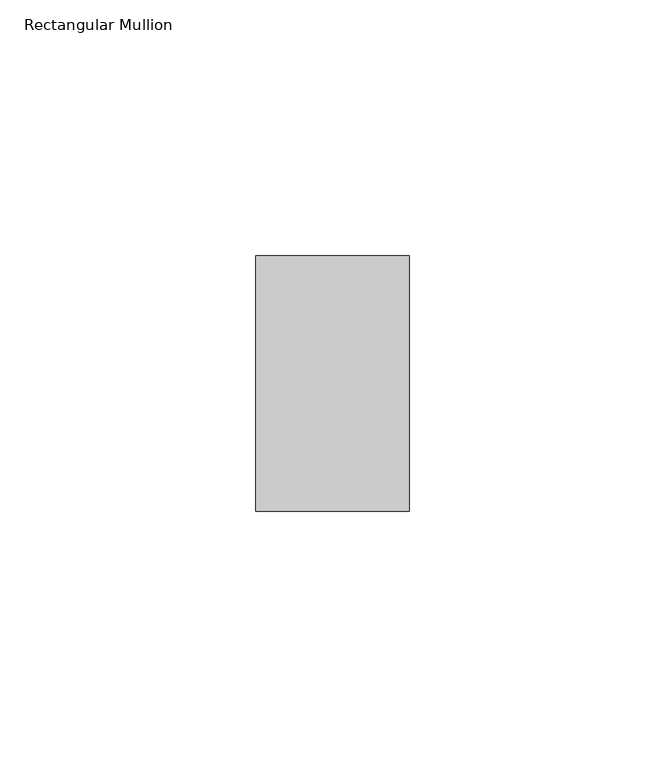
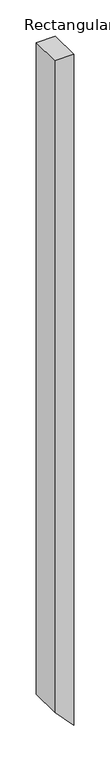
"""IFC4 building model written with IfcOpenShell, lengths in millimetres: member geometry, Rectangular Mullion : ARQ_TV_MULL_50x30mm."""

import ifcopenshell
import ifcopenshell.guid

model = None  # the IFC model being written
_history = None  # IfcOwnerHistory: only IFC2X3 demands one
_inside = {}  # id of a spatial element -> (the spatial element, [elements in it])
_under = {}  # id of a project, library or spatial element -> (it, [spatial elements below it])
_declared = {}  # id of a project -> (the project, [libraries it declares])
_typed = {}  # id of a type object -> (the type object, [elements of that type])
_made_of = {}  # id of a material, layer set ... -> (it, [elements and type objects made of it])


def new_model(schema):
    """Start an empty IFC model of exactly this schema.

    Asked for "IFC4X3", IfcOpenShell would pick the latest addendum, in which some entities
    have other attributes; the version numbers below select the first issue.
    IFC2X3 requires an IfcOwnerHistory on every rooted entity: one is made here for all.
    """
    global model, _history
    if schema == "IFC4X3":
        model = ifcopenshell.file(schema_version=(4, 3, 0, 0))
    else:
        model = ifcopenshell.file(schema=schema)
    _inside.clear()
    _under.clear()
    _declared.clear()
    _typed.clear()
    _made_of.clear()
    _history = None
    if model.schema == "IFC2X3":
        org = make("IfcOrganization", Name="unknown")
        user = make(
            "IfcPersonAndOrganization",
            ThePerson=make("IfcPerson", FamilyName="unknown"),
            TheOrganization=org,
        )
        app = make(
            "IfcApplication",
            ApplicationDeveloper=org,
            Version="unknown",
            ApplicationFullName="unknown",
            ApplicationIdentifier="unknown",
        )
        _history = make(
            "IfcOwnerHistory",
            OwningUser=user,
            OwningApplication=app,
            ChangeAction="ADDED",
            CreationDate=0,
        )
    return model


def make(cls, **values):
    """One entity of the class cls with the attributes given. An attribute that is None is left unset."""
    return model.create_entity(
        cls, **{name: value for name, value in values.items() if value is not None}
    )


def rooted(cls, **values):
    """An entity with a GlobalId (a new one), such as an element, a storey or a relation."""
    return make(cls, GlobalId=ifcopenshell.guid.new(), OwnerHistory=_history, **values)


def si_unit(unit_type, name, prefix=None):
    """IfcSIUnit, for example si_unit("LENGTHUNIT", "METRE", prefix="MILLI")."""
    return make("IfcSIUnit", UnitType=unit_type, Prefix=prefix, Name=name)


def assignment(units):
    """IfcUnitAssignment: the units of a project."""
    return None if units is None else make("IfcUnitAssignment", Units=units)


def point(xyz):
    """IfcCartesianPoint."""
    return None if xyz is None else make("IfcCartesianPoint", Coordinates=xyz)


def direction(xyz):
    """IfcDirection."""
    return None if xyz is None else make("IfcDirection", DirectionRatios=xyz)


def frame(location, z_axis=None, x_axis=None):
    """IfcAxis2Placement3D, a coordinate frame: its origin and axes. An axis left out is left unset."""
    return make(
        "IfcAxis2Placement3D",
        Location=point(location),
        Axis=direction(z_axis),
        RefDirection=direction(x_axis),
    )


def origin():
    """The frame at (0, 0, 0) with its axes left unset."""
    return frame((0.0, 0.0, 0.0))


def place(relative_to, where):
    """IfcLocalPlacement: puts the frame where relative to a parent placement (None: the world)."""
    return make(
        "IfcLocalPlacement", PlacementRelTo=relative_to, RelativePlacement=where
    )


def context(
    kind, dimensions, precision=None, world=None, true_north=None, identifier=None
):
    """IfcGeometricRepresentationContext, for example the 3D "Model" context."""
    return make(
        "IfcGeometricRepresentationContext",
        ContextIdentifier=identifier,
        ContextType=kind,
        CoordinateSpaceDimension=dimensions,
        Precision=precision,
        WorldCoordinateSystem=world,
        TrueNorth=true_north,
    )


def project(units=None, contexts=None):
    """IfcProject with its units and contexts."""
    return rooted(
        "IfcProject",
        Name="project",
        RepresentationContexts=contexts,
        UnitsInContext=assignment(units),
    )


def spatial(cls, under=None, at=None, **own):
    """A site, building, storey or space (cls), placed at a placement, below another one or the project."""
    s = rooted(cls, ObjectPlacement=at, **own)
    if under is not None:
        _under.setdefault(under.id(), (under, []))[1].append(s)
    return s


def polyline(points):
    """IfcPolyline through the points."""
    return make("IfcPolyline", Points=[point(p) for p in points])


def outline(outer, holes=None, kind="AREA"):
    """IfcArbitraryClosedProfileDef: a profile drawn as a closed curve; with holes, ...WithVoids."""
    if holes is None:
        return make("IfcArbitraryClosedProfileDef", ProfileType=kind, OuterCurve=outer)
    return make(
        "IfcArbitraryProfileDefWithVoids",
        ProfileType=kind,
        OuterCurve=outer,
        InnerCurves=holes,
    )


def extrude(swept, where, along, depth):
    """IfcExtrudedAreaSolid: the profile swept, set in the frame where, extruded along a direction by depth."""
    return make(
        "IfcExtrudedAreaSolid",
        SweptArea=swept,
        Position=where,
        ExtrudedDirection=direction(along),
        Depth=depth,
    )


def shape(context_of_items, identifier, shape_type, items):
    """IfcShapeRepresentation: the items that make up one representation, for example the "Body"."""
    return make(
        "IfcShapeRepresentation",
        ContextOfItems=context_of_items,
        RepresentationIdentifier=identifier,
        RepresentationType=shape_type,
        Items=items,
    )


def source(mapping_origin, context_of_items, identifier, shape_type, items):
    """IfcRepresentationMap: a shape defined once, which mapped items show again and again."""
    return make(
        "IfcRepresentationMap",
        MappingOrigin=mapping_origin,
        MappedRepresentation=shape(context_of_items, identifier, shape_type, items),
    )


def transform(
    local_origin,
    x_axis=None,
    y_axis=None,
    z_axis=None,
    scale=None,
    scale2=None,
    scale3=None,
    uniform=True,
):
    """IfcCartesianTransformationOperator3D, or its non-uniform kind. x_axis, y_axis, z_axis: its Axis1, 2, 3."""
    if uniform:
        return make(
            "IfcCartesianTransformationOperator3D",
            Axis1=direction(x_axis),
            Axis2=direction(y_axis),
            LocalOrigin=point(local_origin),
            Scale=scale,
            Axis3=direction(z_axis),
        )
    return make(
        "IfcCartesianTransformationOperator3DnonUniform",
        Axis1=direction(x_axis),
        Axis2=direction(y_axis),
        LocalOrigin=point(local_origin),
        Scale=scale,
        Axis3=direction(z_axis),
        Scale2=scale2,
        Scale3=scale3,
    )


def mapped(mapping_source, mapping_target):
    """IfcMappedItem: shows the shape of a source again, moved by a transform."""
    return make(
        "IfcMappedItem", MappingSource=mapping_source, MappingTarget=mapping_target
    )


def made_of(thing, what):
    """Note that an element or type object is made of a material, layer set ...; save() writes the relation."""
    if what is not None:
        _made_of.setdefault(what.id(), (what, []))[1].append(thing)
    return thing


def element(
    cls,
    number,
    at=None,
    inside=None,
    cuts=None,
    type_object=None,
    material=None,
    context=None,
    identifier="Body",
    shape_type=None,
    held_by="IfcProductDefinitionShape",
    body=None,
    shapes=None,
    **own,
):
    """One element of the class cls, such as IfcWall. Its Tag is "e" and its number.

    at: its placement. inside: the storey or other place that contains it. cuts: it is an
    opening in that element (IfcRelVoidsElement). A single representation is given by context,
    identifier, shape_type and body (its items); several are given by shapes. held_by: the class
    of the entity that holds the representations. save() writes the other relations.
    """
    e = rooted(cls, Tag="e%d" % number, ObjectPlacement=at, **own)
    if body is not None:
        shapes = [shape(context, identifier, shape_type, body)]
    if shapes is not None:
        e.Representation = make(held_by, Representations=shapes)
    if inside is not None:
        _inside.setdefault(inside.id(), (inside, []))[1].append(e)
    if cuts is not None:
        rooted(
            "IfcRelVoidsElement", RelatingBuildingElement=cuts, RelatedOpeningElement=e
        )
    if type_object is not None:
        _typed.setdefault(type_object.id(), (type_object, []))[1].append(e)
    return made_of(e, material)


def aggregate(whole, parts):
    """IfcRelAggregates: a whole, such as a stair, and the parts it consists of."""
    return rooted("IfcRelAggregates", RelatingObject=whole, RelatedObjects=parts)


def save(model, path):
    """Write the relations noted so far, then the file.

    IfcRelAggregates (storeys below a building ...), IfcRelContainedInSpatialStructure (elements
    in a storey), IfcRelDefinesByType, IfcRelAssociatesMaterial and IfcRelDeclares: one each for
    every whole, place, type object, material and project.
    """
    for whole, parts in _under.values():
        aggregate(whole, parts)
    for where, things in _inside.values():
        rooted(
            "IfcRelContainedInSpatialStructure",
            RelatedElements=things,
            RelatingStructure=where,
        )
    for kind, things in _typed.values():
        rooted("IfcRelDefinesByType", RelatedObjects=things, RelatingType=kind)
    for what, things in _made_of.values():
        rooted("IfcRelAssociatesMaterial", RelatedObjects=things, RelatingMaterial=what)
    for by, libraries in _declared.values():
        rooted("IfcRelDeclares", RelatingContext=by, RelatedDefinitions=libraries)
    model.write(path)


def rectangular_mullion_cc8915f7(model_context):
    return source(origin(), model_context, "Body", "SweptSolid", [
        extrude(outline(polyline([(0.0, 0.0), (0.0, -30.0), (-1092.3731263, -30.0), (-1124.8909795, 0.0), (0.0, 0.0)])), frame((0.0, -25.0, 0.0), z_axis=(0.0, 1.0, 0.0), x_axis=(0.0, 0.0, 1.0)), (0.0, 0.0, 1.0), 50.0),
    ])


if __name__ == "__main__":
    model = new_model("IFC4")
    model_context = context("Model", 3, world=origin())
    ifc_project = project(units=[si_unit("LENGTHUNIT", "METRE", prefix="MILLI")], contexts=[model_context])
    site = spatial("IfcSite", under=ifc_project)
    building = spatial("IfcBuilding", under=site)
    placement = place(None, origin())
    rectangular_mullion_shape = rectangular_mullion_cc8915f7(model_context)
    element("IfcMember", 1, ObjectType="Rectangular Mullion : ARQ_TV_MULL_50x30mm", at=placement, inside=building, context=model_context, shape_type="MappedRepresentation", body=[
        mapped(rectangular_mullion_shape, transform((0.0, 0.0, 0.0), x_axis=(1.0, 0.0, 0.0), y_axis=(0.0, 1.0, 0.0), z_axis=(0.0, 0.0, 1.0))),
    ])
    save(model, "model.ifc")
